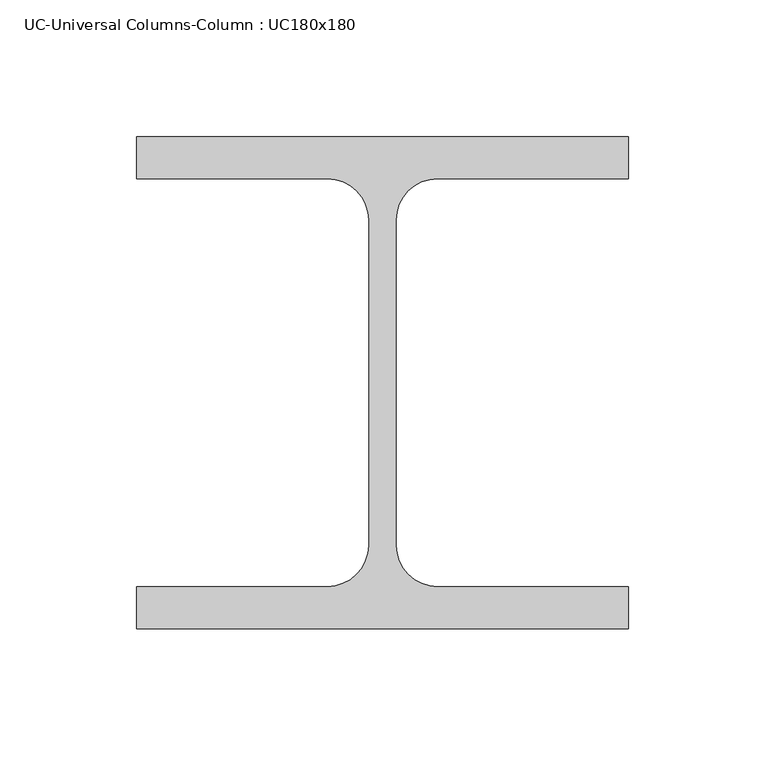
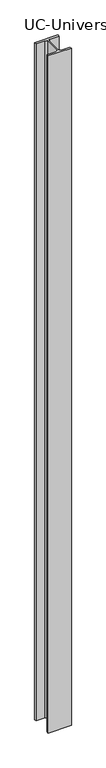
"""IFC4 building model written with IfcOpenShell, lengths in millimetres: column geometry, UC-Universal Columns-Column : UC180x180."""

from ifc_helpers import new_model, si_unit, point, frame, frame_2d, origin, place, context, project, spatial, polyline, circle_curve, trimmed, segment, composite_curve, outline, extrude, source, transform, mapped, element, save


def uc_universal_columns_column_uc180x180_a9cb9fe0(model_context):
    return source(origin(), model_context, "Body", "SweptSolid", [
        extrude(outline(composite_curve([segment(polyline([(90.0, 90.0), (90.0, 74.6), (20.15, 74.6)]), True, "CONTINUOUS"), segment(trimmed(circle_curve(frame_2d((20.15, 59.4)), 15.2), [point((20.15, 74.6))], [point((4.95, 59.4))], True, "CARTESIAN"), True, "CONTINUOUS"), segment(polyline([(4.95, 59.4), (4.95, -59.4)]), True, "CONTINUOUS"), segment(trimmed(circle_curve(frame_2d((20.15, -59.4)), 15.2), [point((4.95, -59.4))], [point((20.15, -74.6))], True, "CARTESIAN"), True, "CONTINUOUS"), segment(polyline([(20.15, -74.6), (90.0, -74.6), (90.0, -90.0), (-90.0, -90.0), (-90.0, -74.6), (-20.15, -74.6)]), True, "CONTINUOUS"), segment(trimmed(circle_curve(frame_2d((-20.15, -59.4)), 15.2), [point((-20.15, -74.6))], [point((-4.95, -59.4))], True, "CARTESIAN"), True, "CONTINUOUS"), segment(polyline([(-4.95, -59.4), (-4.95, 59.4)]), True, "CONTINUOUS"), segment(trimmed(circle_curve(frame_2d((-20.15, 59.4)), 15.2), [point((-4.95, 59.4))], [point((-20.15, 74.6))], True, "CARTESIAN"), True, "CONTINUOUS"), segment(polyline([(-20.15, 74.6), (-90.0, 74.6), (-90.0, 90.0), (90.0, 90.0)]), True, "CONTINUOUS")], self_intersect=False)), frame((0.0, 0.0, 18360.0), z_axis=(0.0, 0.0, 1.0), x_axis=(1.0, 0.0, 0.0)), (0.0, 0.0, 1.0), 5550.0),
    ])


if __name__ == "__main__":
    model = new_model("IFC4")
    model_context = context("Model", 3, world=origin())
    ifc_project = project(units=[si_unit("LENGTHUNIT", "METRE", prefix="MILLI")], contexts=[model_context])
    site = spatial("IfcSite", under=ifc_project)
    building = spatial("IfcBuilding", under=site)
    placement = place(None, origin())
    uc_universal_columns_column_uc180x180_shape = uc_universal_columns_column_uc180x180_a9cb9fe0(model_context)
    element("IfcColumn", 1, ObjectType="UC-Universal Columns-Column : UC180x180", at=placement, inside=building, context=model_context, shape_type="MappedRepresentation", body=[
        mapped(uc_universal_columns_column_uc180x180_shape, transform((0.0, 0.0, 0.0), x_axis=(1.0, 0.0, 0.0), y_axis=(0.0, 1.0, 0.0), z_axis=(0.0, 0.0, 1.0))),
    ])
    save(model, "model.ifc")
